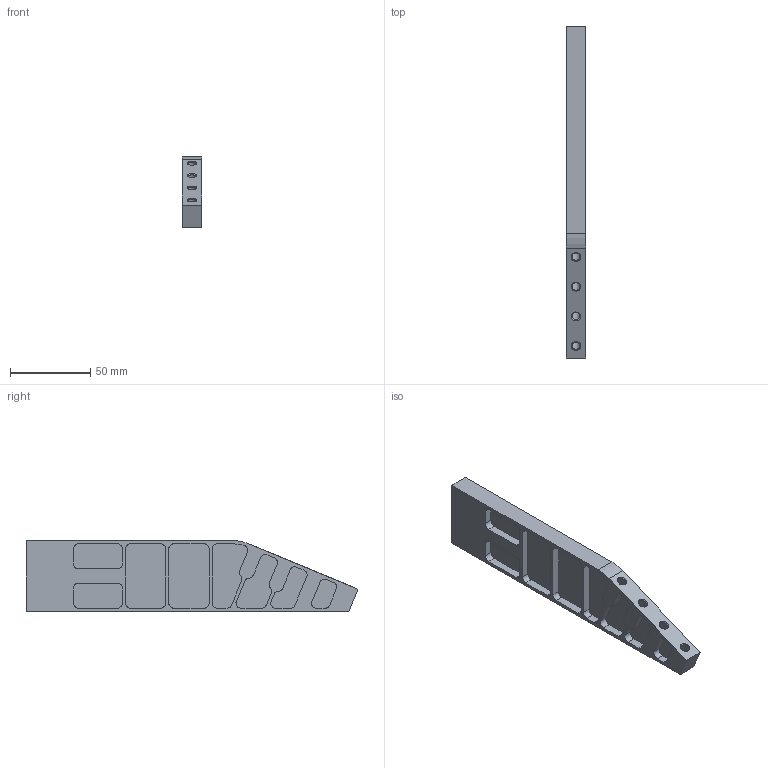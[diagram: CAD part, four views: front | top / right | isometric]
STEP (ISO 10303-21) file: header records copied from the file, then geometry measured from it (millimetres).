
FILE_DESCRIPTION(/* description */ ('(C) Elphel, Inc. 2026. Licensed under CERN OHL v.1.1 or later, see http://ohwr.org/cernohl'),/* implementation_level */ '2;1');
FILE_NAME(/* name */ '0393-18-82.stp',/* time_stamp */ '2026-08-12T10:58:45-07:00',/* author */ (''),/* organization */ ('Elphel, Inc'),/* preprocessor_version */ 'VariCAD 2020-1.02',/* originating_system */ 'VariCAD 2020-1.02; kernel version (20180118)',/* authorisation */ '');
FILE_SCHEMA(('AUTOMOTIVE_DESIGN'));
Length unit declared in the file: millimetre
Products named in the file (2): 0393-18-82
Assembly tree (1 placements, depth 2):
  0393-18-82
    0393-18-82
Bounding box: 12 x 206.77 x 44 mm (x, y, z)
Volume: 43377.2 mm3; surface area: 32700.6 mm2
Topology: 1 solids, 1 shells, 223 faces, 580 edges, 378 vertices
Faces by surface type: cylinder 107, plane 100, cone 16
Entity records: 7098 total; most frequent: CARTESIAN_POINT 1249, DIRECTION 1236, ORIENTED_EDGE 1152, EDGE_CURVE 576, AXIS2_PLACEMENT_3D 441, VERTEX_POINT 378, LINE 354, VECTOR 354
